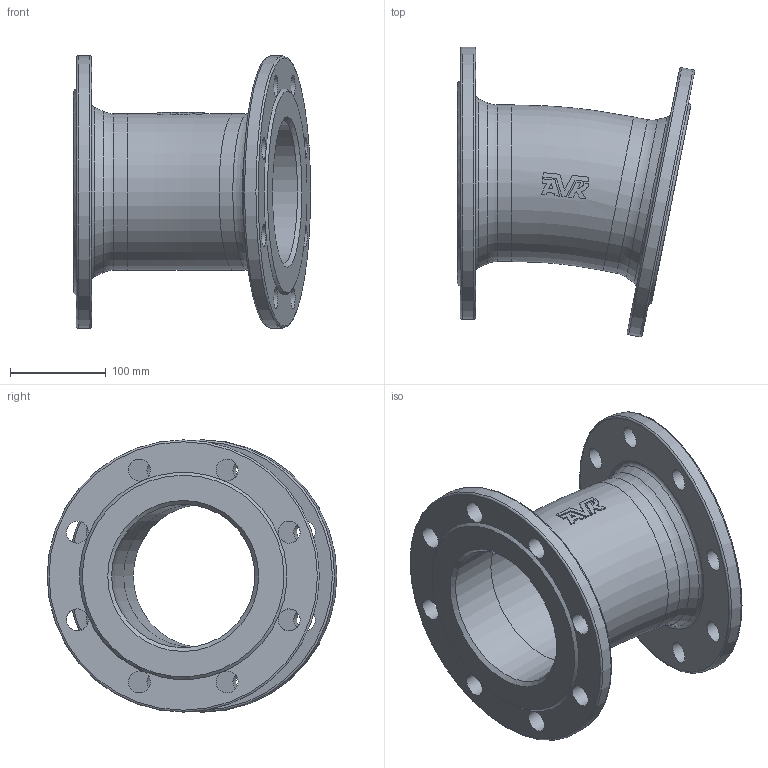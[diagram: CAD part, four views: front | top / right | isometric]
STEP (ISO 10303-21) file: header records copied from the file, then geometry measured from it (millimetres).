
FILE_DESCRIPTION (( 'STEP AP203' ), '1' );
FILE_NAME ('O_712_0110_DN150_1X_REV01.step', '2024-08-15T07:37:47', ( '' ), ( '' ), 'SwSTEP 2.0', 'SolidWorks 2022', '' );
FILE_SCHEMA (( 'CONFIG_CONTROL_DESIGN' ));
Length unit declared in the file: millimetre
Products named in the file (1): O_712_0110_DN150_1X_REV01
Bounding box: 248.34 x 303.37 x 285 mm (x, y, z)
Volume: 2194827.5 mm3; surface area: 404563.9 mm2
Topology: 1 solids, 1 shells, 85 faces, 248 edges, 157 vertices
Faces by surface type: plane 41, cylinder 24, torus 14, cone 6
Full cylindrical faces by diameter (mm): 23 x16, 150 x2, 164 x2, 285 x2
Entity records: 2668 total; most frequent: CARTESIAN_POINT 693, ORIENTED_EDGE 370, DIRECTION 357, EDGE_CURVE 185, AXIS2_PLACEMENT_3D 160, EDGE_LOOP 149, VERTEX_POINT 132, FACE_OUTER_BOUND 117
